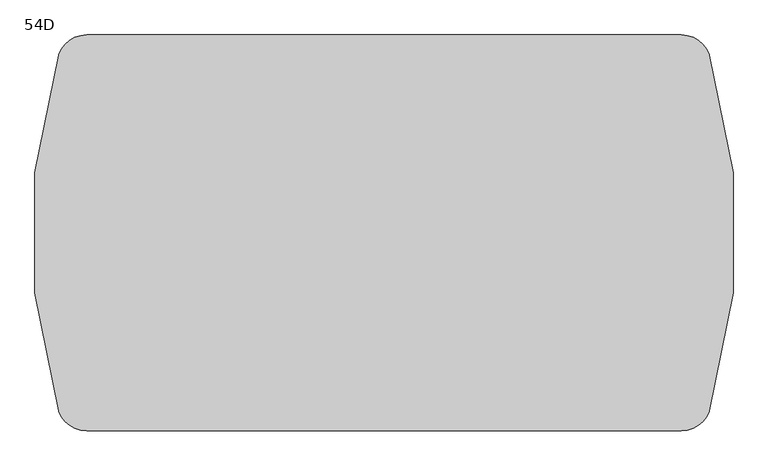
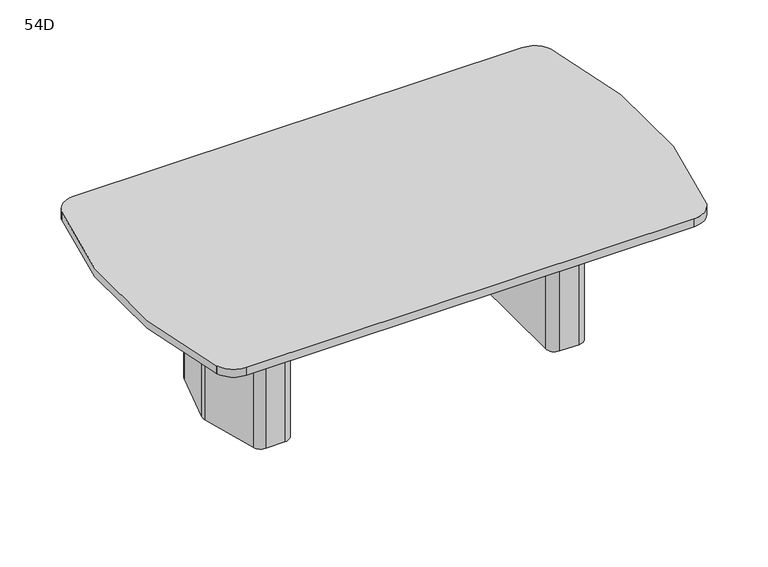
"""IFC4 building model written with IfcOpenShell, lengths in millimetres: furniture geometry, Coalesse_AM_Table_Conference_ETable2_SoftRadiused_96in_TwoBase : 54D."""

import ifcopenshell
import ifcopenshell.guid

model = None  # the IFC model being written
_history = None  # IfcOwnerHistory: only IFC2X3 demands one
_inside = {}  # id of a spatial element -> (the spatial element, [elements in it])
_under = {}  # id of a project, library or spatial element -> (it, [spatial elements below it])
_declared = {}  # id of a project -> (the project, [libraries it declares])
_typed = {}  # id of a type object -> (the type object, [elements of that type])
_made_of = {}  # id of a material, layer set ... -> (it, [elements and type objects made of it])


def new_model(schema):
    """Start an empty IFC model of exactly this schema.

    Asked for "IFC4X3", IfcOpenShell would pick the latest addendum, in which some entities
    have other attributes; the version numbers below select the first issue.
    IFC2X3 requires an IfcOwnerHistory on every rooted entity: one is made here for all.
    """
    global model, _history
    if schema == "IFC4X3":
        model = ifcopenshell.file(schema_version=(4, 3, 0, 0))
    else:
        model = ifcopenshell.file(schema=schema)
    _inside.clear()
    _under.clear()
    _declared.clear()
    _typed.clear()
    _made_of.clear()
    _history = None
    if model.schema == "IFC2X3":
        org = make("IfcOrganization", Name="unknown")
        user = make(
            "IfcPersonAndOrganization",
            ThePerson=make("IfcPerson", FamilyName="unknown"),
            TheOrganization=org,
        )
        app = make(
            "IfcApplication",
            ApplicationDeveloper=org,
            Version="unknown",
            ApplicationFullName="unknown",
            ApplicationIdentifier="unknown",
        )
        _history = make(
            "IfcOwnerHistory",
            OwningUser=user,
            OwningApplication=app,
            ChangeAction="ADDED",
            CreationDate=0,
        )
    return model


def make(cls, **values):
    """One entity of the class cls with the attributes given. An attribute that is None is left unset."""
    return model.create_entity(
        cls, **{name: value for name, value in values.items() if value is not None}
    )


def rooted(cls, **values):
    """An entity with a GlobalId (a new one), such as an element, a storey or a relation."""
    return make(cls, GlobalId=ifcopenshell.guid.new(), OwnerHistory=_history, **values)


def si_unit(unit_type, name, prefix=None):
    """IfcSIUnit, for example si_unit("LENGTHUNIT", "METRE", prefix="MILLI")."""
    return make("IfcSIUnit", UnitType=unit_type, Prefix=prefix, Name=name)


def assignment(units):
    """IfcUnitAssignment: the units of a project."""
    return None if units is None else make("IfcUnitAssignment", Units=units)


def point(xyz):
    """IfcCartesianPoint."""
    return None if xyz is None else make("IfcCartesianPoint", Coordinates=xyz)


def direction(xyz):
    """IfcDirection."""
    return None if xyz is None else make("IfcDirection", DirectionRatios=xyz)


def frame(location, z_axis=None, x_axis=None):
    """IfcAxis2Placement3D, a coordinate frame: its origin and axes. An axis left out is left unset."""
    return make(
        "IfcAxis2Placement3D",
        Location=point(location),
        Axis=direction(z_axis),
        RefDirection=direction(x_axis),
    )


def frame_2d(location, x_axis=None):
    """IfcAxis2Placement2D, a coordinate frame in the plane: its origin and x axis."""
    return make(
        "IfcAxis2Placement2D", Location=point(location), RefDirection=direction(x_axis)
    )


def origin():
    """The frame at (0, 0, 0) with its axes left unset."""
    return frame((0.0, 0.0, 0.0))


def place(relative_to, where):
    """IfcLocalPlacement: puts the frame where relative to a parent placement (None: the world)."""
    return make(
        "IfcLocalPlacement", PlacementRelTo=relative_to, RelativePlacement=where
    )


def context(
    kind, dimensions, precision=None, world=None, true_north=None, identifier=None
):
    """IfcGeometricRepresentationContext, for example the 3D "Model" context."""
    return make(
        "IfcGeometricRepresentationContext",
        ContextIdentifier=identifier,
        ContextType=kind,
        CoordinateSpaceDimension=dimensions,
        Precision=precision,
        WorldCoordinateSystem=world,
        TrueNorth=true_north,
    )


def project(units=None, contexts=None):
    """IfcProject with its units and contexts."""
    return rooted(
        "IfcProject",
        Name="project",
        RepresentationContexts=contexts,
        UnitsInContext=assignment(units),
    )


def spatial(cls, under=None, at=None, **own):
    """A site, building, storey or space (cls), placed at a placement, below another one or the project."""
    s = rooted(cls, ObjectPlacement=at, **own)
    if under is not None:
        _under.setdefault(under.id(), (under, []))[1].append(s)
    return s


def polyline(points):
    """IfcPolyline through the points."""
    return make("IfcPolyline", Points=[point(p) for p in points])


def circle_curve(where, radius):
    """IfcCircle in the frame where."""
    return make("IfcCircle", Position=where, Radius=radius)


def trimmed(basis, trim1, trim2, sense, master):
    """IfcTrimmedCurve: the piece of a basis curve between two trims."""
    return make(
        "IfcTrimmedCurve",
        BasisCurve=basis,
        Trim1=trim1,
        Trim2=trim2,
        SenseAgreement=sense,
        MasterRepresentation=master,
    )


def segment(curve, same_sense, transition):
    """IfcCompositeCurveSegment."""
    return make(
        "IfcCompositeCurveSegment",
        Transition=transition,
        SameSense=same_sense,
        ParentCurve=curve,
    )


def composite_curve(segments, self_intersect=None):
    """IfcCompositeCurve: segments joined end to end."""
    return make("IfcCompositeCurve", Segments=segments, SelfIntersect=self_intersect)


def outline(outer, holes=None, kind="AREA"):
    """IfcArbitraryClosedProfileDef: a profile drawn as a closed curve; with holes, ...WithVoids."""
    if holes is None:
        return make("IfcArbitraryClosedProfileDef", ProfileType=kind, OuterCurve=outer)
    return make(
        "IfcArbitraryProfileDefWithVoids",
        ProfileType=kind,
        OuterCurve=outer,
        InnerCurves=holes,
    )


def extrude(swept, where, along, depth):
    """IfcExtrudedAreaSolid: the profile swept, set in the frame where, extruded along a direction by depth."""
    return make(
        "IfcExtrudedAreaSolid",
        SweptArea=swept,
        Position=where,
        ExtrudedDirection=direction(along),
        Depth=depth,
    )


def shape(context_of_items, identifier, shape_type, items):
    """IfcShapeRepresentation: the items that make up one representation, for example the "Body"."""
    return make(
        "IfcShapeRepresentation",
        ContextOfItems=context_of_items,
        RepresentationIdentifier=identifier,
        RepresentationType=shape_type,
        Items=items,
    )


def source(mapping_origin, context_of_items, identifier, shape_type, items):
    """IfcRepresentationMap: a shape defined once, which mapped items show again and again."""
    return make(
        "IfcRepresentationMap",
        MappingOrigin=mapping_origin,
        MappedRepresentation=shape(context_of_items, identifier, shape_type, items),
    )


def transform(
    local_origin,
    x_axis=None,
    y_axis=None,
    z_axis=None,
    scale=None,
    scale2=None,
    scale3=None,
    uniform=True,
):
    """IfcCartesianTransformationOperator3D, or its non-uniform kind. x_axis, y_axis, z_axis: its Axis1, 2, 3."""
    if uniform:
        return make(
            "IfcCartesianTransformationOperator3D",
            Axis1=direction(x_axis),
            Axis2=direction(y_axis),
            LocalOrigin=point(local_origin),
            Scale=scale,
            Axis3=direction(z_axis),
        )
    return make(
        "IfcCartesianTransformationOperator3DnonUniform",
        Axis1=direction(x_axis),
        Axis2=direction(y_axis),
        LocalOrigin=point(local_origin),
        Scale=scale,
        Axis3=direction(z_axis),
        Scale2=scale2,
        Scale3=scale3,
    )


def mapped(mapping_source, mapping_target):
    """IfcMappedItem: shows the shape of a source again, moved by a transform."""
    return make(
        "IfcMappedItem", MappingSource=mapping_source, MappingTarget=mapping_target
    )


def made_of(thing, what):
    """Note that an element or type object is made of a material, layer set ...; save() writes the relation."""
    if what is not None:
        _made_of.setdefault(what.id(), (what, []))[1].append(thing)
    return thing


def element(
    cls,
    number,
    at=None,
    inside=None,
    cuts=None,
    type_object=None,
    material=None,
    context=None,
    identifier="Body",
    shape_type=None,
    held_by="IfcProductDefinitionShape",
    body=None,
    shapes=None,
    **own,
):
    """One element of the class cls, such as IfcWall. Its Tag is "e" and its number.

    at: its placement. inside: the storey or other place that contains it. cuts: it is an
    opening in that element (IfcRelVoidsElement). A single representation is given by context,
    identifier, shape_type and body (its items); several are given by shapes. held_by: the class
    of the entity that holds the representations. save() writes the other relations.
    """
    e = rooted(cls, Tag="e%d" % number, ObjectPlacement=at, **own)
    if body is not None:
        shapes = [shape(context, identifier, shape_type, body)]
    if shapes is not None:
        e.Representation = make(held_by, Representations=shapes)
    if inside is not None:
        _inside.setdefault(inside.id(), (inside, []))[1].append(e)
    if cuts is not None:
        rooted(
            "IfcRelVoidsElement", RelatingBuildingElement=cuts, RelatedOpeningElement=e
        )
    if type_object is not None:
        _typed.setdefault(type_object.id(), (type_object, []))[1].append(e)
    return made_of(e, material)


def aggregate(whole, parts):
    """IfcRelAggregates: a whole, such as a stair, and the parts it consists of."""
    return rooted("IfcRelAggregates", RelatingObject=whole, RelatedObjects=parts)


def save(model, path):
    """Write the relations noted so far, then the file.

    IfcRelAggregates (storeys below a building ...), IfcRelContainedInSpatialStructure (elements
    in a storey), IfcRelDefinesByType, IfcRelAssociatesMaterial and IfcRelDeclares: one each for
    every whole, place, type object, material and project.
    """
    for whole, parts in _under.values():
        aggregate(whole, parts)
    for where, things in _inside.values():
        rooted(
            "IfcRelContainedInSpatialStructure",
            RelatedElements=things,
            RelatingStructure=where,
        )
    for kind, things in _typed.values():
        rooted("IfcRelDefinesByType", RelatedObjects=things, RelatingType=kind)
    for what, things in _made_of.values():
        rooted("IfcRelAssociatesMaterial", RelatedObjects=things, RelatingMaterial=what)
    for by, libraries in _declared.values():
        rooted("IfcRelDeclares", RelatingContext=by, RelatedDefinitions=libraries)
    model.write(path)


def plane_surface(at):
    """IfcPlane: the flat surface through the origin of the frame at, square to its z axis."""
    return make("IfcPlane", Position=at)


def cylinder_surface(at, radius):
    """IfcCylindricalSurface: all points at the distance radius from the z axis of the frame at."""
    return make("IfcCylindricalSurface", Position=at, Radius=radius)


def revolved_surface(curve, axis_point, axis_direction):
    """IfcSurfaceOfRevolution: the curve turned about the line through axis_point along axis_direction."""
    return make(
        "IfcSurfaceOfRevolution",
        SweptCurve=make("IfcArbitraryOpenProfileDef", ProfileType="CURVE", Curve=curve),
        AxisPosition=make("IfcAxis1Placement", Location=point(axis_point), Axis=direction(axis_direction)),
    )


def advanced_brep(points, edges, surfaces, faces):
    """IfcAdvancedBrep: a solid bounded by faces that lie on surfaces and meet in shared edges.

    An edge is (start, end): straight between two places in points (the first is 0);
    or (start, end, curve); or (start, end, curve, False) where it runs against its curve.
    A face is (place in surfaces, loops), or (place, loops, False) where it looks against
    its surface's normal. A loop lists edges by number (the first is 1), with a minus sign
    where the edge is run from its end to its start. The first loop is the outer one.
    """
    corners = [point(p) for p in points]
    vertices = [make("IfcVertexPoint", VertexGeometry=c) for c in corners]
    made = []
    for start, end, *more in edges:
        made.append(
            make(
                "IfcEdgeCurve",
                EdgeStart=vertices[start],
                EdgeEnd=vertices[end],
                EdgeGeometry=more[0] if more else make("IfcPolyline", Points=[corners[start], corners[end]]),
                SameSense=more[1] if len(more) > 1 else True,
            )
        )
    hull = []
    for where, loops, *sense in faces:
        bounds = []
        for j, loop in enumerate(loops):
            ring = [make("IfcOrientedEdge", EdgeElement=made[abs(k) - 1], Orientation=k > 0) for k in loop]
            bounds.append(
                make(
                    "IfcFaceOuterBound" if j == 0 else "IfcFaceBound",
                    Bound=make("IfcEdgeLoop", EdgeList=ring),
                    Orientation=True,
                )
            )
        hull.append(make("IfcAdvancedFace", Bounds=bounds, FaceSurface=surfaces[where], SameSense=sense[0] if sense else True))
    return make("IfcAdvancedBrep", Outer=make("IfcClosedShell", CfsFaces=hull))


def furniture_54d_ceadc46e(model_context):
    return source(origin(), model_context, "Body", "SolidModel", [
        advanced_brep(
        [(760.624548, 274.2093613, 698.5), (720.7579246, 304.8, 698.5), (631.825, 304.8, 698.5), (590.55, 263.525, 698.5), (590.55, -263.525, 698.5), (631.825, -304.8, 698.5), (720.7579246, -304.8, 698.5), (760.624548, -274.2093613, 698.5), (831.2503901, -10.6333708, 698.5), (831.2503901, 10.6333708, 698.5), (628.65, -206.375, 698.5), (628.65, 206.375, 698.5), (654.05, 231.775, 698.5), (713.0608422, 231.775, 698.5), (737.595338, 212.9490792, 698.5), (776.2875, 68.54974, 698.5), (776.2875, -68.54974, 698.5), (737.595338, -212.9490792, 698.5), (713.0608422, -231.775, 698.5), (654.05, -231.775, 698.5), (760.624548, 274.2093613, 3.175), (831.2503901, 10.6333708, 3.175), (831.2503901, -10.6333708, 3.175), (760.624548, -274.2093613, 3.175), (720.7579246, -304.8, 3.175), (631.825, -304.8, 3.175), (590.55, -263.525, 3.175), (590.55, 263.525, 3.175), (631.825, 304.8, 3.175), (720.7579246, 304.8, 3.175), (749.8625859, 216.2361187, 3.175), (713.0608422, 244.475, 3.175), (654.05, 244.475, 3.175), (615.95, 206.375, 3.175), (615.95, -206.375, 3.175), (654.05, -244.475, 3.175), (713.0608422, -244.475, 3.175), (749.8625859, -216.2361187, 3.175), (788.9875, -70.2217466, 3.175), (788.9875, 70.2217466, 3.175), (654.05, -231.775, 3.175), (628.65, -206.375, 3.175), (713.0608422, -231.775, 3.175), (737.595338, -212.9490792, 3.175), (776.2875, -68.54974, 3.175), (776.2875, 68.54974, 3.175), (737.595338, 212.9490792, 3.175), (713.0608422, 231.775, 3.175), (654.05, 231.775, 3.175), (628.65, 206.375, 3.175), (749.8625859, 216.2361187, 0.0), (788.9875, 70.2217466, 0.0), (788.9875, -70.2217466, 0.0), (749.8625859, -216.2361187, 0.0), (713.0608422, -244.475, 0.0), (654.05, -244.475, 0.0), (615.95, -206.375, 0.0), (615.95, 206.375, 0.0), (654.05, 244.475, 0.0), (713.0608422, 244.475, 0.0)],
        [
            (0, 1, circle_curve(frame((720.7579246, 263.5270004, 698.5), z_axis=(0.0, 0.0, 1.0), x_axis=(-1.0, 0.0, 0.0)), 41.2729996)),
            (1, 2),
            (2, 3, circle_curve(frame((631.825, 263.525, 698.5), z_axis=(0.0, 0.0, 1.0), x_axis=(-1.0, 0.0, 0.0)), 41.275)),
            (3, 4),
            (4, 5, circle_curve(frame((631.825, -263.525, 698.5), z_axis=(0.0, 0.0, 1.0), x_axis=(-1.0, 0.0, 0.0)), 41.275)),
            (5, 6),
            (6, 7, circle_curve(frame((720.7579246, -263.5270004, 698.5), z_axis=(0.0, 0.0, 1.0), x_axis=(-1.0, 0.0, 0.0)), 41.2729996)),
            (7, 8),
            (8, 9, circle_curve(frame((791.5665979, 0.0, 698.5), z_axis=(0.0, 0.0, 1.0), x_axis=(-1.0, 0.0, 0.0)), 41.0837187)),
            (9, 0),
            (10, 11),
            (11, 12, circle_curve(frame((654.05, 206.375, 698.5), z_axis=(0.0, 0.0, -1.0), x_axis=(-1.0, 0.0, 0.0)), 25.4)),
            (12, 13),
            (13, 14, circle_curve(frame((713.0608422, 206.375, 698.5), z_axis=(0.0, 0.0, -1.0), x_axis=(-1.0, 0.0, 0.0)), 25.4)),
            (14, 15),
            (15, 16),
            (16, 17),
            (17, 18, circle_curve(frame((713.0608422, -206.375, 698.5), z_axis=(0.0, 0.0, -1.0), x_axis=(-1.0, 0.0, 0.0)), 25.4)),
            (18, 19),
            (19, 10, circle_curve(frame((654.05, -206.375, 698.5), z_axis=(0.0, 0.0, -1.0), x_axis=(-1.0, 0.0, 0.0)), 25.4)),
            (20, 21),
            (21, 22, circle_curve(frame((791.5665979, 0.0, 3.175), z_axis=(0.0, 0.0, -1.0), x_axis=(-1.0, 0.0, 0.0)), 41.0837187)),
            (22, 23),
            (23, 24, circle_curve(frame((720.7579246, -263.5270004, 3.175), z_axis=(0.0, 0.0, -1.0), x_axis=(-1.0, 0.0, 0.0)), 41.2729996)),
            (24, 25),
            (25, 26, circle_curve(frame((631.825, -263.525, 3.175), z_axis=(0.0, 0.0, -1.0), x_axis=(-1.0, 0.0, 0.0)), 41.275)),
            (26, 27),
            (27, 28, circle_curve(frame((631.825, 263.525, 3.175), z_axis=(0.0, 0.0, -1.0), x_axis=(-1.0, 0.0, 0.0)), 41.275)),
            (28, 29),
            (29, 20, circle_curve(frame((720.7579246, 263.5270004, 3.175), z_axis=(0.0, 0.0, -1.0), x_axis=(-1.0, 0.0, 0.0)), 41.2729996)),
            (30, 31, circle_curve(frame((713.0608422, 206.375, 3.175), z_axis=(0.0, 0.0, 1.0), x_axis=(-1.0, 0.0, 0.0)), 38.1)),
            (31, 32),
            (32, 33, circle_curve(frame((654.05, 206.375, 3.175), z_axis=(0.0, 0.0, 1.0), x_axis=(-1.0, 0.0, 0.0)), 38.1)),
            (33, 34),
            (34, 35, circle_curve(frame((654.05, -206.375, 3.175), z_axis=(0.0, 0.0, 1.0), x_axis=(-1.0, 0.0, 0.0)), 38.1)),
            (35, 36),
            (36, 37, circle_curve(frame((713.0608422, -206.375, 3.175), z_axis=(0.0, 0.0, 1.0), x_axis=(-1.0, 0.0, 0.0)), 38.1)),
            (37, 38),
            (38, 39),
            (39, 30),
            (9, 21),
            (20, 0),
            (8, 22),
            (7, 23),
            (6, 24),
            (5, 25),
            (4, 26),
            (3, 27),
            (2, 28),
            (1, 29),
            (19, 40),
            (40, 41, circle_curve(frame((654.05, -206.375, 3.175), z_axis=(0.0, 0.0, -1.0), x_axis=(-1.0, 0.0, 0.0)), 25.4)),
            (41, 10),
            (18, 42),
            (42, 40),
            (17, 43),
            (43, 42, circle_curve(frame((713.0608422, -206.375, 3.175), z_axis=(0.0, 0.0, -1.0), x_axis=(-1.0, 0.0, 0.0)), 25.4)),
            (16, 44),
            (44, 43),
            (15, 45),
            (45, 44),
            (14, 46),
            (46, 45),
            (13, 47),
            (47, 46, circle_curve(frame((713.0608422, 206.375, 3.175), z_axis=(0.0, 0.0, -1.0), x_axis=(-1.0, 0.0, 0.0)), 25.4)),
            (12, 48),
            (48, 47),
            (11, 49),
            (49, 48, circle_curve(frame((654.05, 206.375, 3.175), z_axis=(0.0, 0.0, -1.0), x_axis=(-1.0, 0.0, 0.0)), 25.4)),
            (41, 49),
            (50, 51),
            (51, 52),
            (52, 53),
            (53, 54, circle_curve(frame((713.0608422, -206.375, 0.0), z_axis=(0.0, 0.0, -1.0), x_axis=(-1.0, 0.0, 0.0)), 38.1)),
            (54, 55),
            (55, 56, circle_curve(frame((654.05, -206.375, 0.0), z_axis=(0.0, 0.0, -1.0), x_axis=(-1.0, 0.0, 0.0)), 38.1)),
            (56, 57),
            (57, 58, circle_curve(frame((654.05, 206.375, 0.0), z_axis=(0.0, 0.0, -1.0), x_axis=(-1.0, 0.0, 0.0)), 38.1)),
            (58, 59),
            (59, 50, circle_curve(frame((713.0608422, 206.375, 0.0), z_axis=(0.0, 0.0, -1.0), x_axis=(-1.0, 0.0, 0.0)), 38.1)),
            (50, 30),
            (39, 51),
            (38, 52),
            (37, 53),
            (36, 54),
            (35, 55),
            (34, 56),
            (33, 57),
            (32, 58),
            (31, 59),
        ],
        [
            plane_surface(frame((831.2374275, 10.6817473, 698.5), z_axis=(0.0, 0.0, 1.0000000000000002), x_axis=(0.25882201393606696, -0.9659250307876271, 0.0))),
            plane_surface(frame((831.2374275, 10.6817473, 3.175), z_axis=(0.0, 0.0, -1.0000000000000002), x_axis=(-0.25882201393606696, 0.9659250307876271, 0.0))),
            plane_surface(frame((760.624548, 274.2093613, 698.5), z_axis=(0.9659250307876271, 0.25882201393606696, 0.0), x_axis=(0.0, 0.0, -1.0))),
            cylinder_surface(frame((791.5665979, 0.0, 3.175), z_axis=(0.0, 0.0, 1.0), x_axis=(-1.0, 0.0, 0.0)), 41.0837187),
            plane_surface(frame((831.2503901, -10.6333708, 698.5), z_axis=(0.9659250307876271, -0.2588220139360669, 0.0), x_axis=(0.0, 0.0, -1.0))),
            cylinder_surface(frame((720.7579246, -263.5270004, 3.175), z_axis=(0.0, 0.0, 1.0), x_axis=(-1.0, 0.0, 0.0)), 41.2729996),
            plane_surface(frame((720.7579246, -304.8, 698.5), z_axis=(0.0, -1.0, 0.0), x_axis=(0.0, 0.0, -1.0))),
            cylinder_surface(frame((631.825, -263.525, 3.175), z_axis=(0.0, 0.0, 1.0), x_axis=(-1.0, 0.0, 0.0)), 41.275),
            plane_surface(frame((590.55, -263.525, 698.5), z_axis=(-1.0, 0.0, 0.0), x_axis=(0.0, 0.0, -1.0))),
            cylinder_surface(frame((631.825, 263.525, 3.175), z_axis=(0.0, 0.0, 1.0), x_axis=(-1.0, 0.0, 0.0)), 41.275),
            plane_surface(frame((631.825, 304.8, 698.5), z_axis=(0.0, 1.0, 0.0), x_axis=(0.0, 0.0, -1.0))),
            cylinder_surface(frame((720.7579246, 263.5270004, 3.175), z_axis=(0.0, 0.0, 1.0), x_axis=(-1.0, 0.0, 0.0)), 41.2729996),
            revolved_surface(polyline([(628.65, -206.375, 3.175), (628.65, -206.375, 698.5)]), (654.05, -206.375, 0.0), (0.0, 0.0, -1.0)),
            plane_surface(frame((654.05, -231.775, 698.5), z_axis=(0.0, 1.0, 0.0), x_axis=(0.0, 0.0, -1.0))),
            revolved_surface(polyline([(687.6608422, -206.375, 3.175), (687.6608422, -206.375, 698.5)]), (713.0608422, -206.375, 0.0), (0.0, 0.0, -1.0)),
            plane_surface(frame((737.595338, -212.9490792, 698.5), z_axis=(-0.9659250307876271, 0.2588220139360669, 0.0), x_axis=(0.0, 0.0, -1.0))),
            plane_surface(frame((776.2875, -68.54974, 698.5), z_axis=(-1.0, 0.0, 0.0), x_axis=(0.0, 0.0, -1.0))),
            plane_surface(frame((776.2875, 68.54974, 698.5), z_axis=(-0.9659250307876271, -0.25882201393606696, 0.0), x_axis=(0.0, 0.0, -1.0))),
            revolved_surface(polyline([(687.6608422, 206.375, 3.175), (687.6608422, 206.375, 698.5)]), (713.0608422, 206.375, 0.0), (0.0, 0.0, -1.0)),
            plane_surface(frame((713.0608422, 231.775, 698.5), z_axis=(0.0, -1.0, 0.0), x_axis=(0.0, 0.0, -1.0))),
            revolved_surface(polyline([(628.65, 206.375, 3.175), (628.65, 206.375, 698.5)]), (654.05, 206.375, 0.0), (0.0, 0.0, -1.0)),
            plane_surface(frame((628.65, 206.375, 698.5), z_axis=(1.0, 0.0, 0.0), x_axis=(0.0, 0.0, -1.0))),
            plane_surface(frame((788.5547479, 71.8367796, 3.175), z_axis=(0.0, 0.0, 1.0), x_axis=(0.25882201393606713, -0.965925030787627, 0.0))),
            plane_surface(frame((788.5547479, 71.8367796, 0.0), z_axis=(0.0, 0.0, -1.0), x_axis=(-0.25882201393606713, 0.965925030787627, 0.0))),
            plane_surface(frame((749.8625859, 216.2361187, 3.175), z_axis=(0.965925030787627, 0.25882201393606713, 0.0), x_axis=(0.0, 0.0, -1.0))),
            plane_surface(frame((788.9875, 70.2217466, 3.175), z_axis=(1.0, 0.0, 0.0), x_axis=(0.0, 0.0, -1.0))),
            plane_surface(frame((788.9875, -70.2217466, 3.175), z_axis=(0.9659250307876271, -0.2588220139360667, 0.0), x_axis=(0.0, 0.0, -1.0))),
            cylinder_surface(frame((713.0608422, -206.375, 0.0), z_axis=(0.0, 0.0, 1.0), x_axis=(-1.0, 0.0, 0.0)), 38.1),
            plane_surface(frame((713.0608422, -244.475, 3.175), z_axis=(0.0, -1.0, 0.0), x_axis=(0.0, 0.0, -1.0))),
            cylinder_surface(frame((654.05, -206.375, 0.0), z_axis=(0.0, 0.0, 1.0), x_axis=(-1.0, 0.0, 0.0)), 38.1),
            plane_surface(frame((615.95, -206.375, 3.175), z_axis=(-1.0, 0.0, 0.0), x_axis=(0.0, 0.0, -1.0))),
            cylinder_surface(frame((654.05, 206.375, 0.0), z_axis=(0.0, 0.0, 1.0), x_axis=(-1.0, 0.0, 0.0)), 38.1),
            plane_surface(frame((654.05, 244.475, 3.175), z_axis=(0.0, 1.0, 0.0), x_axis=(0.0, 0.0, -1.0))),
            cylinder_surface(frame((713.0608422, 206.375, 0.0), z_axis=(0.0, 0.0, 1.0), x_axis=(-1.0, 0.0, 0.0)), 38.1),
        ],
        [
            (0, [[1, 2, 3, 4, 5, 6, 7, 8, 9, 10], [11, 12, 13, 14, 15, 16, 17, 18, 19, 20]]),
            (1, [[21, 22, 23, 24, 25, 26, 27, 28, 29, 30], [31, 32, 33, 34, 35, 36, 37, 38, 39, 40]]),
            (2, [[41, -21, 42, -10]]),
            (3, [[43, -22, -41, -9]]),
            (4, [[44, -23, -43, -8]]),
            (5, [[45, -24, -44, -7]]),
            (6, [[46, -25, -45, -6]]),
            (7, [[47, -26, -46, -5]]),
            (8, [[48, -27, -47, -4]]),
            (9, [[49, -28, -48, -3]]),
            (10, [[50, -29, -49, -2]]),
            (11, [[-42, -30, -50, -1]]),
            (12, [[51, 52, 53, -20]]),
            (13, [[54, 55, -51, -19]]),
            (14, [[56, 57, -54, -18]]),
            (15, [[58, 59, -56, -17]]),
            (16, [[60, 61, -58, -16]]),
            (17, [[62, 63, -60, -15]]),
            (18, [[64, 65, -62, -14]]),
            (19, [[66, 67, -64, -13]]),
            (20, [[68, 69, -66, -12]]),
            (21, [[-53, 70, -68, -11]]),
            (22, [[-55, -57, -59, -61, -63, -65, -67, -69, -70, -52]]),
            (23, [[71, 72, 73, 74, 75, 76, 77, 78, 79, 80]]),
            (24, [[81, -40, 82, -71]]),
            (25, [[-82, -39, 83, -72]]),
            (26, [[-83, -38, 84, -73]]),
            (27, [[-84, -37, 85, -74]]),
            (28, [[-85, -36, 86, -75]]),
            (29, [[-86, -35, 87, -76]]),
            (30, [[-87, -34, 88, -77]]),
            (31, [[-88, -33, 89, -78]]),
            (32, [[-89, -32, 90, -79]]),
            (33, [[-90, -31, -81, -80]]),
        ],
    ),
        advanced_brep(
        [(-760.624548, 274.2093613, 698.5), (-831.2503901, 10.6333708, 698.5), (-831.2503901, -10.6333708, 698.5), (-760.624548, -274.2093613, 698.5), (-720.7579246, -304.8, 698.5), (-631.825, -304.8, 698.5), (-590.55, -263.525, 698.5), (-590.55, 263.525, 698.5), (-631.825, 304.8, 698.5), (-720.7579246, 304.8, 698.5), (-628.65, -206.375, 698.5), (-654.05, -231.775, 698.5), (-713.0608422, -231.775, 698.5), (-737.595338, -212.9490792, 698.5), (-776.2875, -68.54974, 698.5), (-776.2875, 68.54974, 698.5), (-737.595338, 212.9490792, 698.5), (-713.0608422, 231.775, 698.5), (-654.05, 231.775, 698.5), (-628.65, 206.375, 698.5), (-760.624548, 274.2093613, 3.175), (-720.7579246, 304.8, 3.175), (-631.825, 304.8, 3.175), (-590.55, 263.525, 3.175), (-590.55, -263.525, 3.175), (-631.825, -304.8, 3.175), (-720.7579246, -304.8, 3.175), (-760.624548, -274.2093613, 3.175), (-831.2503901, -10.6333708, 3.175), (-831.2503901, 10.6333708, 3.175), (-749.8625859, 216.2361187, 3.175), (-788.9875, 70.2217466, 3.175), (-788.9875, -70.2217466, 3.175), (-749.8625859, -216.2361187, 3.175), (-713.0608422, -244.475, 3.175), (-654.05, -244.475, 3.175), (-615.95, -206.375, 3.175), (-615.95, 206.375, 3.175), (-654.05, 244.475, 3.175), (-713.0608422, 244.475, 3.175), (-628.65, -206.375, 3.175), (-654.05, -231.775, 3.175), (-713.0608422, -231.775, 3.175), (-737.595338, -212.9490792, 3.175), (-776.2875, -68.54974, 3.175), (-776.2875, 68.54974, 3.175), (-737.595338, 212.9490792, 3.175), (-713.0608422, 231.775, 3.175), (-654.05, 231.775, 3.175), (-628.65, 206.375, 3.175), (-749.8625859, 216.2361187, 0.0), (-713.0608422, 244.475, 0.0), (-654.05, 244.475, 0.0), (-615.95, 206.375, 0.0), (-615.95, -206.375, 0.0), (-654.05, -244.475, 0.0), (-713.0608422, -244.475, 0.0), (-749.8625859, -216.2361187, 0.0), (-788.9875, -70.2217466, 0.0), (-788.9875, 70.2217466, 0.0)],
        [
            (0, 1),
            (1, 2, circle_curve(frame((-791.5665979, 0.0, 698.5), z_axis=(0.0, 0.0, 1.0), x_axis=(1.0, 0.0, 0.0)), 41.0837187)),
            (2, 3),
            (3, 4, circle_curve(frame((-720.7579246, -263.5270004, 698.5), z_axis=(0.0, 0.0, 1.0), x_axis=(1.0, 0.0, 0.0)), 41.2729996)),
            (4, 5),
            (5, 6, circle_curve(frame((-631.825, -263.525, 698.5), z_axis=(0.0, 0.0, 1.0), x_axis=(1.0, 0.0, 0.0)), 41.275)),
            (6, 7),
            (7, 8, circle_curve(frame((-631.825, 263.525, 698.5), z_axis=(0.0, 0.0, 1.0), x_axis=(1.0, 0.0, 0.0)), 41.275)),
            (8, 9),
            (9, 0, circle_curve(frame((-720.7579246, 263.5270004, 698.5), z_axis=(0.0, 0.0, 1.0), x_axis=(1.0, 0.0, 0.0)), 41.2729996)),
            (10, 11, circle_curve(frame((-654.05, -206.375, 698.5), z_axis=(0.0, 0.0, -1.0), x_axis=(1.0, 0.0, 0.0)), 25.4)),
            (11, 12),
            (12, 13, circle_curve(frame((-713.0608422, -206.375, 698.5), z_axis=(0.0, 0.0, -1.0), x_axis=(1.0, 0.0, 0.0)), 25.4)),
            (13, 14),
            (14, 15),
            (15, 16),
            (16, 17, circle_curve(frame((-713.0608422, 206.375, 698.5), z_axis=(0.0, 0.0, -1.0), x_axis=(1.0, 0.0, 0.0)), 25.4)),
            (17, 18),
            (18, 19, circle_curve(frame((-654.05, 206.375, 698.5), z_axis=(0.0, 0.0, -1.0), x_axis=(1.0, 0.0, 0.0)), 25.4)),
            (19, 10),
            (20, 21, circle_curve(frame((-720.7579246, 263.5270004, 3.175), z_axis=(0.0, 0.0, -1.0), x_axis=(1.0, 0.0, 0.0)), 41.2729996)),
            (21, 22),
            (22, 23, circle_curve(frame((-631.825, 263.525, 3.175), z_axis=(0.0, 0.0, -1.0), x_axis=(1.0, 0.0, 0.0)), 41.275)),
            (23, 24),
            (24, 25, circle_curve(frame((-631.825, -263.525, 3.175), z_axis=(0.0, 0.0, -1.0), x_axis=(1.0, 0.0, 0.0)), 41.275)),
            (25, 26),
            (26, 27, circle_curve(frame((-720.7579246, -263.5270004, 3.175), z_axis=(0.0, 0.0, -1.0), x_axis=(1.0, 0.0, 0.0)), 41.2729996)),
            (27, 28),
            (28, 29, circle_curve(frame((-791.5665979, 0.0, 3.175), z_axis=(0.0, 0.0, -1.0), x_axis=(1.0, 0.0, 0.0)), 41.0837187)),
            (29, 20),
            (30, 31),
            (31, 32),
            (32, 33),
            (33, 34, circle_curve(frame((-713.0608422, -206.375, 3.175), z_axis=(0.0, 0.0, 1.0), x_axis=(1.0, 0.0, 0.0)), 38.1)),
            (34, 35),
            (35, 36, circle_curve(frame((-654.05, -206.375, 3.175), z_axis=(0.0, 0.0, 1.0), x_axis=(1.0, 0.0, 0.0)), 38.1)),
            (36, 37),
            (37, 38, circle_curve(frame((-654.05, 206.375, 3.175), z_axis=(0.0, 0.0, 1.0), x_axis=(1.0, 0.0, 0.0)), 38.1)),
            (38, 39),
            (39, 30, circle_curve(frame((-713.0608422, 206.375, 3.175), z_axis=(0.0, 0.0, 1.0), x_axis=(1.0, 0.0, 0.0)), 38.1)),
            (0, 20),
            (29, 1),
            (28, 2),
            (27, 3),
            (26, 4),
            (25, 5),
            (24, 6),
            (23, 7),
            (22, 8),
            (21, 9),
            (10, 40),
            (40, 41, circle_curve(frame((-654.05, -206.375, 3.175), z_axis=(0.0, 0.0, -1.0), x_axis=(1.0, 0.0, 0.0)), 25.4)),
            (41, 11),
            (41, 42),
            (42, 12),
            (42, 43, circle_curve(frame((-713.0608422, -206.375, 3.175), z_axis=(0.0, 0.0, -1.0), x_axis=(1.0, 0.0, 0.0)), 25.4)),
            (43, 13),
            (43, 44),
            (44, 14),
            (44, 45),
            (45, 15),
            (45, 46),
            (46, 16),
            (46, 47, circle_curve(frame((-713.0608422, 206.375, 3.175), z_axis=(0.0, 0.0, -1.0), x_axis=(1.0, 0.0, 0.0)), 25.4)),
            (47, 17),
            (47, 48),
            (48, 18),
            (48, 49, circle_curve(frame((-654.05, 206.375, 3.175), z_axis=(0.0, 0.0, -1.0), x_axis=(1.0, 0.0, 0.0)), 25.4)),
            (49, 19),
            (49, 40),
            (50, 51, circle_curve(frame((-713.0608422, 206.375, 0.0), z_axis=(0.0, 0.0, -1.0), x_axis=(1.0, 0.0, 0.0)), 38.1)),
            (51, 52),
            (52, 53, circle_curve(frame((-654.05, 206.375, 0.0), z_axis=(0.0, 0.0, -1.0), x_axis=(1.0, 0.0, 0.0)), 38.1)),
            (53, 54),
            (54, 55, circle_curve(frame((-654.05, -206.375, 0.0), z_axis=(0.0, 0.0, -1.0), x_axis=(1.0, 0.0, 0.0)), 38.1)),
            (55, 56),
            (56, 57, circle_curve(frame((-713.0608422, -206.375, 0.0), z_axis=(0.0, 0.0, -1.0), x_axis=(1.0, 0.0, 0.0)), 38.1)),
            (57, 58),
            (58, 59),
            (59, 50),
            (59, 31),
            (30, 50),
            (58, 32),
            (57, 33),
            (56, 34),
            (55, 35),
            (54, 36),
            (53, 37),
            (52, 38),
            (51, 39),
        ],
        [
            plane_surface(frame((-831.2374275, 10.6817473, 698.5), z_axis=(0.0, 0.0, 1.0000000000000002), x_axis=(-0.25882201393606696, -0.9659250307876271, 0.0))),
            plane_surface(frame((-831.2374275, 10.6817473, 3.175), z_axis=(0.0, 0.0, -1.0000000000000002), x_axis=(0.25882201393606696, 0.9659250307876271, 0.0))),
            plane_surface(frame((-760.624548, 274.2093613, 698.5), z_axis=(-0.9659250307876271, 0.25882201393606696, 0.0), x_axis=(0.0, 0.0, -1.0))),
            cylinder_surface(frame((-791.5665979, 0.0, 3.175), z_axis=(0.0, 0.0, 1.0), x_axis=(1.0, 0.0, 0.0)), 41.0837187),
            plane_surface(frame((-831.2503901, -10.6333708, 698.5), z_axis=(-0.9659250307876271, -0.2588220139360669, 0.0), x_axis=(0.0, 0.0, -1.0))),
            cylinder_surface(frame((-720.7579246, -263.5270004, 3.175), z_axis=(0.0, 0.0, 1.0), x_axis=(1.0, 0.0, 0.0)), 41.2729996),
            plane_surface(frame((-720.7579246, -304.8, 698.5), z_axis=(0.0, -1.0, 0.0), x_axis=(0.0, 0.0, -1.0))),
            cylinder_surface(frame((-631.825, -263.525, 3.175), z_axis=(0.0, 0.0, 1.0), x_axis=(1.0, 0.0, 0.0)), 41.275),
            plane_surface(frame((-590.55, -263.525, 698.5), z_axis=(1.0, 0.0, 0.0), x_axis=(0.0, 0.0, -1.0))),
            cylinder_surface(frame((-631.825, 263.525, 3.175), z_axis=(0.0, 0.0, 1.0), x_axis=(1.0, 0.0, 0.0)), 41.275),
            plane_surface(frame((-631.825, 304.8, 698.5), z_axis=(0.0, 1.0, 0.0), x_axis=(0.0, 0.0, -1.0))),
            cylinder_surface(frame((-720.7579246, 263.5270004, 3.175), z_axis=(0.0, 0.0, 1.0), x_axis=(1.0, 0.0, 0.0)), 41.2729996),
            revolved_surface(polyline([(-628.65, -206.375, 3.175), (-628.65, -206.375, 698.5)]), (-654.05, -206.375, 0.0), (0.0, 0.0, -1.0)),
            plane_surface(frame((-654.05, -231.775, 698.5), z_axis=(0.0, 1.0, 0.0), x_axis=(0.0, 0.0, -1.0))),
            revolved_surface(polyline([(-687.6608422, -206.375, 3.175), (-687.6608422, -206.375, 698.5)]), (-713.0608422, -206.375, 0.0), (0.0, 0.0, -1.0)),
            plane_surface(frame((-737.595338, -212.9490792, 698.5), z_axis=(0.9659250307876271, 0.2588220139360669, 0.0), x_axis=(0.0, 0.0, -1.0))),
            plane_surface(frame((-776.2875, -68.54974, 698.5), z_axis=(1.0, 0.0, 0.0), x_axis=(0.0, 0.0, -1.0))),
            plane_surface(frame((-776.2875, 68.54974, 698.5), z_axis=(0.9659250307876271, -0.25882201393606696, 0.0), x_axis=(0.0, 0.0, -1.0))),
            revolved_surface(polyline([(-687.6608422, 206.375, 3.175), (-687.6608422, 206.375, 698.5)]), (-713.0608422, 206.375, 0.0), (0.0, 0.0, -1.0)),
            plane_surface(frame((-713.0608422, 231.775, 698.5), z_axis=(0.0, -1.0, 0.0), x_axis=(0.0, 0.0, -1.0))),
            revolved_surface(polyline([(-628.65, 206.375, 3.175), (-628.65, 206.375, 698.5)]), (-654.05, 206.375, 0.0), (0.0, 0.0, -1.0)),
            plane_surface(frame((-628.65, 206.375, 698.5), z_axis=(-1.0, 0.0, 0.0), x_axis=(0.0, 0.0, -1.0))),
            plane_surface(frame((-788.5547479, 71.8367796, 3.175), z_axis=(0.0, 0.0, 1.0), x_axis=(-0.25882201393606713, -0.965925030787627, 0.0))),
            plane_surface(frame((-788.5547479, 71.8367796, 0.0), z_axis=(0.0, 0.0, -1.0), x_axis=(0.25882201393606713, 0.965925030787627, 0.0))),
            plane_surface(frame((-749.8625859, 216.2361187, 3.175), z_axis=(-0.965925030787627, 0.25882201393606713, 0.0), x_axis=(0.0, 0.0, -1.0))),
            plane_surface(frame((-788.9875, 70.2217466, 3.175), z_axis=(-1.0, 0.0, 0.0), x_axis=(0.0, 0.0, -1.0))),
            plane_surface(frame((-788.9875, -70.2217466, 3.175), z_axis=(-0.9659250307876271, -0.2588220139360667, 0.0), x_axis=(0.0, 0.0, -1.0))),
            cylinder_surface(frame((-713.0608422, -206.375, 0.0), z_axis=(0.0, 0.0, 1.0), x_axis=(1.0, 0.0, 0.0)), 38.1),
            plane_surface(frame((-713.0608422, -244.475, 3.175), z_axis=(0.0, -1.0, 0.0), x_axis=(0.0, 0.0, -1.0))),
            cylinder_surface(frame((-654.05, -206.375, 0.0), z_axis=(0.0, 0.0, 1.0), x_axis=(1.0, 0.0, 0.0)), 38.1),
            plane_surface(frame((-615.95, -206.375, 3.175), z_axis=(1.0, 0.0, 0.0), x_axis=(0.0, 0.0, -1.0))),
            cylinder_surface(frame((-654.05, 206.375, 0.0), z_axis=(0.0, 0.0, 1.0), x_axis=(1.0, 0.0, 0.0)), 38.1),
            plane_surface(frame((-654.05, 244.475, 3.175), z_axis=(0.0, 1.0, 0.0), x_axis=(0.0, 0.0, -1.0))),
            cylinder_surface(frame((-713.0608422, 206.375, 0.0), z_axis=(0.0, 0.0, 1.0), x_axis=(1.0, 0.0, 0.0)), 38.1),
        ],
        [
            (0, [[1, 2, 3, 4, 5, 6, 7, 8, 9, 10], [11, 12, 13, 14, 15, 16, 17, 18, 19, 20]]),
            (1, [[21, 22, 23, 24, 25, 26, 27, 28, 29, 30], [31, 32, 33, 34, 35, 36, 37, 38, 39, 40]]),
            (2, [[-1, 41, -30, 42]]),
            (3, [[-2, -42, -29, 43]]),
            (4, [[-3, -43, -28, 44]]),
            (5, [[-4, -44, -27, 45]]),
            (6, [[-5, -45, -26, 46]]),
            (7, [[-6, -46, -25, 47]]),
            (8, [[-7, -47, -24, 48]]),
            (9, [[-8, -48, -23, 49]]),
            (10, [[-9, -49, -22, 50]]),
            (11, [[-10, -50, -21, -41]]),
            (12, [[-11, 51, 52, 53]]),
            (13, [[-12, -53, 54, 55]]),
            (14, [[-13, -55, 56, 57]]),
            (15, [[-14, -57, 58, 59]]),
            (16, [[-15, -59, 60, 61]]),
            (17, [[-16, -61, 62, 63]]),
            (18, [[-17, -63, 64, 65]]),
            (19, [[-18, -65, 66, 67]]),
            (20, [[-19, -67, 68, 69]]),
            (21, [[-20, -69, 70, -51]]),
            (22, [[-52, -70, -68, -66, -64, -62, -60, -58, -56, -54]]),
            (23, [[71, 72, 73, 74, 75, 76, 77, 78, 79, 80]]),
            (24, [[-80, 81, -31, 82]]),
            (25, [[-79, 83, -32, -81]]),
            (26, [[-78, 84, -33, -83]]),
            (27, [[-77, 85, -34, -84]]),
            (28, [[-76, 86, -35, -85]]),
            (29, [[-75, 87, -36, -86]]),
            (30, [[-74, 88, -37, -87]]),
            (31, [[-73, 89, -38, -88]]),
            (32, [[-72, 90, -39, -89]]),
            (33, [[-71, -82, -40, -90]]),
        ],
    ),
        extrude(outline(polyline([(96.8375, 698.5), (103.1875, 698.5), (103.1875, 476.25), (-103.1875, 476.25), (-103.1875, 698.5), (-96.8375, 698.5), (-96.8375, 482.6), (96.8375, 482.6), (96.8375, 698.5)])), frame((-590.55, 0.0, 0.0), z_axis=(1.0, 0.0, 0.0), x_axis=(0.0, 1.0, 0.0)), (0.0, 0.0, 1.0), 1181.1),
        extrude(outline(composite_curve([segment(polyline([(1030.442116, -685.8), (-1030.4420609, -685.8)]), True, "CONTINUOUS"), segment(trimmed(circle_curve(frame_2d((-1030.4420609, -584.1999756)), 101.6000244), [point((-1030.4420609, -685.8))], [point((-1126.2319848, -618.0652296))], False, "CARTESIAN"), True, "CONTINUOUS"), segment(polyline([(-1126.2319848, -618.0652296), (-1126.9878201, -615.9273037)]), True, "CONTINUOUS"), segment(trimmed(circle_curve(frame_2d((875.1624285, 5.18e-05)), 2094.7487022), [point((-1126.9878201, -615.9273037))], [point((-1126.9818993, 615.9466533))], False, "CARTESIAN"), True, "CONTINUOUS"), segment(polyline([(-1126.9818993, 615.9466533), (-1126.2316179, 618.0662966)]), True, "CONTINUOUS"), segment(trimmed(circle_curve(frame_2d((-1030.4420884, 584.2)), 101.6), [point((-1126.2316179, 618.0662966))], [point((-1030.4420884, 685.8))], False, "CARTESIAN"), True, "CONTINUOUS"), segment(polyline([(-1030.4420884, 685.8), (1030.4420884, 685.8)]), True, "CONTINUOUS"), segment(trimmed(circle_curve(frame_2d((1030.4420884, 584.1999756)), 101.6000244), [point((1030.4420884, 685.8))], [point((1126.2320124, 618.0652296))], False, "CARTESIAN"), True, "CONTINUOUS"), segment(polyline([(1126.2320124, 618.0652296), (1126.9878477, 615.9248048)]), True, "CONTINUOUS"), segment(trimmed(circle_curve(frame_2d((-875.1457795, -5.18e-05)), 2094.7320807), [point((1126.9878477, 615.9248048))], [point((1126.9819268, -615.9441544))], False, "CARTESIAN"), True, "CONTINUOUS"), segment(polyline([(1126.9819268, -615.9441544), (1126.2316455, -618.0662966)]), True, "CONTINUOUS"), segment(trimmed(circle_curve(frame_2d((1030.442116, -584.2)), 101.6), [point((1126.2316455, -618.0662966))], [point((1030.442116, -685.8))], False, "CARTESIAN"), True, "CONTINUOUS")], self_intersect=False)), frame((0.0, 0.0, 698.5), z_axis=(0.0, 0.0, 1.0), x_axis=(1.0, 0.0, 0.0)), (0.0, 0.0, 1.0), 38.1),
    ])


if __name__ == "__main__":
    model = new_model("IFC4")
    model_context = context("Model", 3, world=origin())
    ifc_project = project(units=[si_unit("LENGTHUNIT", "METRE", prefix="MILLI")], contexts=[model_context])
    site = spatial("IfcSite", under=ifc_project)
    building = spatial("IfcBuilding", under=site)
    placement = place(None, origin())
    furniture_54d_shape = furniture_54d_ceadc46e(model_context)
    element("IfcFurniture", 1, ObjectType="Coalesse_AM_Table_Conference_ETable2_SoftRadiused_96in_TwoBase : 54D", at=placement, inside=building, context=model_context, shape_type="MappedRepresentation", body=[
        mapped(furniture_54d_shape, transform((0.0, 0.0, 0.0), x_axis=(1.0, 0.0, 0.0), y_axis=(0.0, 1.0, 0.0), z_axis=(0.0, 0.0, 1.0))),
    ])
    save(model, "model.ifc")
